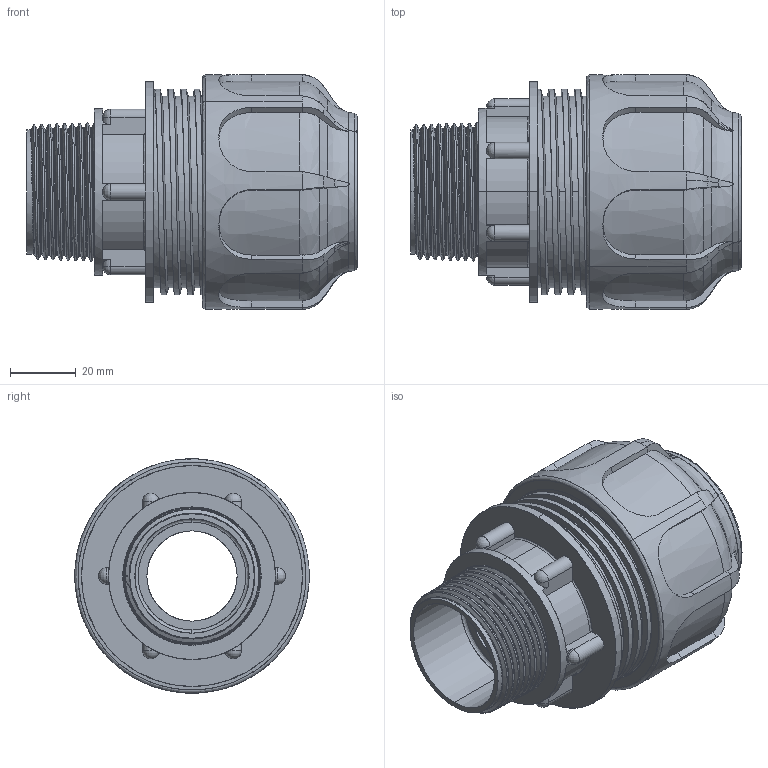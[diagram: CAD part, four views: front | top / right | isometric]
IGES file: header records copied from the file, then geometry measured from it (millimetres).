
Start section: SolidWorks IGES file using analytic representation for surfaces
Global section: file name: P:\DisegniUfficioTecnico\Articoli\ARTICOLI_3D\DISEGNI_STEP_IGS_SITO\02004\02004_IGS\02004.0932.IGS; native system: SolidWorks 2011; preprocessor: SolidWorks 2011; author: giacomo; date: 170522.161054; units: millimetre
Bounding box: 100.28 x 71.1 x 71.1 mm (x, y, z)
Surface area: 77751.9 mm2 (no closed solid volume)
Topology: 0 solids, 0 shells, 448 faces, 10776 edges, 10757 vertices
Faces by surface type: bspline 246, revolution 202
